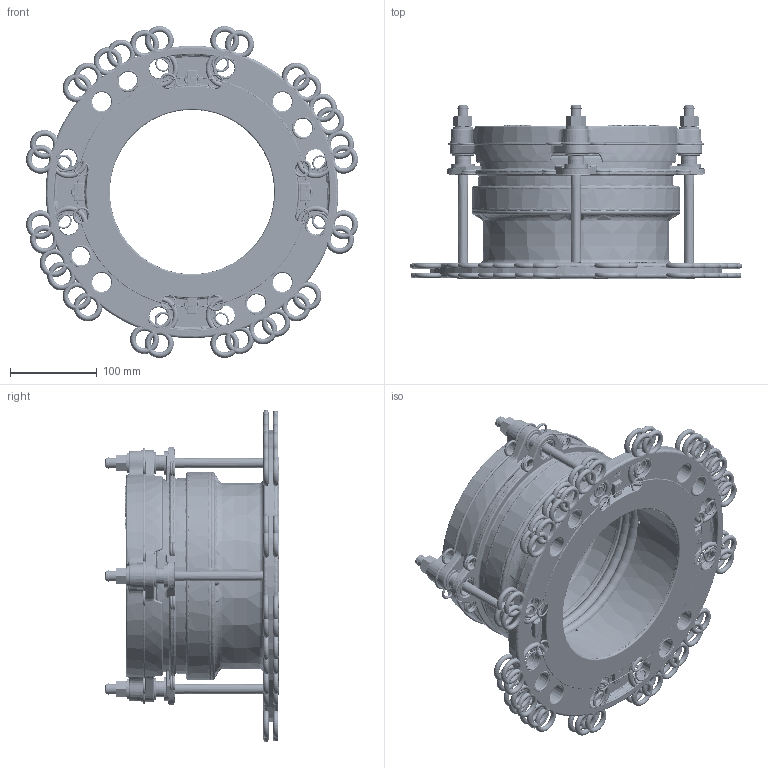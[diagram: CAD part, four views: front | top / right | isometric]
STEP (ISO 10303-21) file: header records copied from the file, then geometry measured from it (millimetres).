
FILE_DESCRIPTION((''),'2;1');
FILE_NAME('13383_9','2014-12-15T',('rburgess'),('Viking Johnson'),'PRO/ENGINEER BY PARAMETRIC TECHNOLOGY CORPORATION, 2006020','PRO/ENGINEER BY PARAMETRIC TECHNOLOGY CORPORATION, 2006020','');
FILE_SCHEMA(('CONFIG_CONTROL_DESIGN'));
Products named in the file (1): 13383_9
Bounding box: 383.36 x 200.9 x 383.36 mm (x, y, z)
Surface area: 2003117.4 mm2 (no closed solid volume)
Topology: 0 solids, 0 shells, 5223 faces, 28114 edges, 27578 vertices
Faces by surface type: bspline 4472, torus 659, sphere 92
Entity records: 384254 total; most frequent: CARTESIAN_POINT 135502, DIRECTION 39885, TRIMMED_CURVE 35491, VECTOR 32599, LINE 32599, DEFINITIONAL_REPRESENTATION 27030, PCURVE 27030, COMPOSITE_CURVE_SEGMENT 27030
